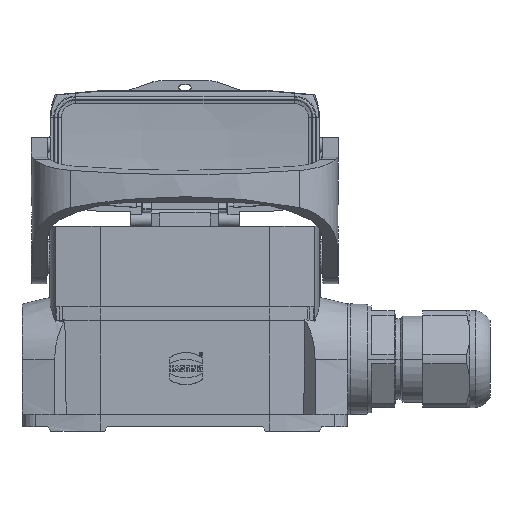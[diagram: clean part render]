
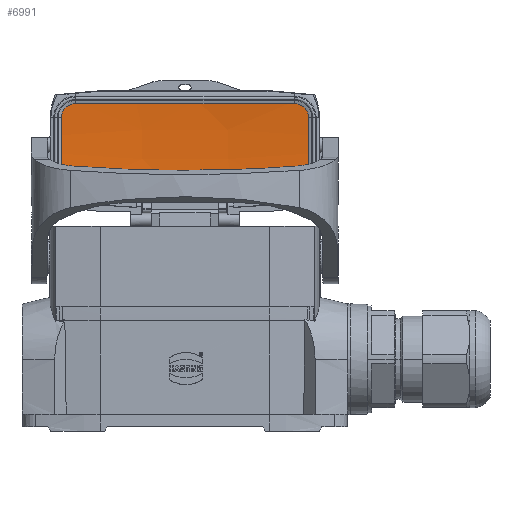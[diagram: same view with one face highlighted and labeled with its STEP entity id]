
A CAD part, front view. The second image highlights one B-rep face of the part: STEP entity #6991.
In plain terms, the highlighted free-form (B-spline) face has degree [3, 3] with [4, 4] control points.
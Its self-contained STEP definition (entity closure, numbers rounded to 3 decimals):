
#5488=(
BOUNDED_SURFACE()
B_SPLINE_SURFACE(3,3,((#31685,#31686,#31687,#31688),(#31689,#31690,#31691,
#31692),(#31693,#31694,#31695,#31696),(#31697,#31698,#31699,#31700)),
 .UNSPECIFIED.,.F.,.F.,.F.)
B_SPLINE_SURFACE_WITH_KNOTS((4,4),(4,4),(0.,1.),(0.,1.),.UNSPECIFIED.)
GEOMETRIC_REPRESENTATION_ITEM()
RATIONAL_B_SPLINE_SURFACE(((1.,0.999,0.999,1.),
(0.998,0.997,0.997,0.998),
(0.998,0.997,0.997,0.998),
(1.,0.999,0.999,1.)))
REPRESENTATION_ITEM('')
SURFACE()
);
#5959=FACE_OUTER_BOUND('',#8612,.T.);
#6991=ADVANCED_FACE('',(#5959),#5488,.T.);
#8612=EDGE_LOOP('',(#10316,#10317,#10318,#10319,#10320,#10321,#10322,#10323));
#10316=ORIENTED_EDGE('',*,*,#16716,.T.);
#10317=ORIENTED_EDGE('',*,*,#16717,.T.);
#10318=ORIENTED_EDGE('',*,*,#16718,.T.);
#10319=ORIENTED_EDGE('',*,*,#16719,.T.);
#10320=ORIENTED_EDGE('',*,*,#16720,.T.);
#10321=ORIENTED_EDGE('',*,*,#16721,.T.);
#10322=ORIENTED_EDGE('',*,*,#16722,.T.);
#10323=ORIENTED_EDGE('',*,*,#16723,.T.);
#14839=VERTEX_POINT('',#31647);
#14840=VERTEX_POINT('',#31648);
#14841=VERTEX_POINT('',#31655);
#14842=VERTEX_POINT('',#31657);
#14843=VERTEX_POINT('',#31664);
#14844=VERTEX_POINT('',#31669);
#14845=VERTEX_POINT('',#31676);
#14846=VERTEX_POINT('',#31678);
#16716=EDGE_CURVE('',#14839,#14840,#18874,.T.);
#16717=EDGE_CURVE('',#14840,#14841,#18875,.T.);
#16718=EDGE_CURVE('',#14841,#14842,#19345,.T.);
#16719=EDGE_CURVE('',#14842,#14843,#18876,.T.);
#16720=EDGE_CURVE('',#14843,#14844,#18877,.T.);
#16721=EDGE_CURVE('',#14844,#14845,#18878,.T.);
#16722=EDGE_CURVE('',#14845,#14846,#19346,.T.);
#16723=EDGE_CURVE('',#14846,#14839,#18879,.T.);
#18874=B_SPLINE_CURVE_WITH_KNOTS('',3,(#31643,#31644,#31645,#31646),
 .UNSPECIFIED.,.F.,.F.,(4,4),(0.,1.),.UNSPECIFIED.);
#18875=B_SPLINE_CURVE_WITH_KNOTS('',3,(#31649,#31650,#31651,#31652,#31653,
#31654),.UNSPECIFIED.,.F.,.F.,(4,2,4),(0.,0.5,1.),.UNSPECIFIED.);
#18876=B_SPLINE_CURVE_WITH_KNOTS('',3,(#31658,#31659,#31660,#31661,#31662,
#31663),.UNSPECIFIED.,.F.,.F.,(4,2,4),(0.,0.5,1.),.UNSPECIFIED.);
#18877=B_SPLINE_CURVE_WITH_KNOTS('',3,(#31665,#31666,#31667,#31668),
 .UNSPECIFIED.,.F.,.F.,(4,4),(0.,1.),.UNSPECIFIED.);
#18878=B_SPLINE_CURVE_WITH_KNOTS('',3,(#31670,#31671,#31672,#31673,#31674,
#31675),.UNSPECIFIED.,.F.,.F.,(4,2,4),(0.,0.5,1.),.UNSPECIFIED.);
#18879=B_SPLINE_CURVE_WITH_KNOTS('',3,(#31679,#31680,#31681,#31682,#31683,
#31684),.UNSPECIFIED.,.F.,.F.,(4,2,4),(0.,0.5,1.),.UNSPECIFIED.);
#19345=CIRCLE('',#24549,197.046);
#19346=CIRCLE('',#24550,197.046);
#24549=AXIS2_PLACEMENT_3D('',#31656,#26660,#26661);
#24550=AXIS2_PLACEMENT_3D('',#31677,#26662,#26663);
#26660=DIRECTION('',(-1.,0.,0.));
#26661=DIRECTION('',(0.,0.,-1.));
#26662=DIRECTION('',(1.,0.,0.));
#26663=DIRECTION('',(0.,0.,-1.));
#31643=CARTESIAN_POINT('',(33.05,36.321,46.35));
#31644=CARTESIAN_POINT('',(11.017,37.789,46.35));
#31645=CARTESIAN_POINT('',(-11.017,37.789,46.35));
#31646=CARTESIAN_POINT('',(-33.05,36.321,46.35));
#31647=CARTESIAN_POINT('',(33.05,36.321,46.35));
#31648=CARTESIAN_POINT('',(-33.05,36.321,46.35));
#31649=CARTESIAN_POINT('',(-33.05,36.321,46.35));
#31650=CARTESIAN_POINT('',(-34.368,36.234,46.35));
#31651=CARTESIAN_POINT('',(-35.663,36.179,45.808));
#31652=CARTESIAN_POINT('',(-37.508,36.151,43.963));
#31653=CARTESIAN_POINT('',(-38.05,36.177,42.67));
#31654=CARTESIAN_POINT('',(-38.05,36.231,41.35));
#31655=CARTESIAN_POINT('',(-38.05,36.231,41.35));
#31656=CARTESIAN_POINT('',(-38.05,-160.65,33.3));
#31657=CARTESIAN_POINT('',(-38.05,36.231,25.25));
#31658=CARTESIAN_POINT('',(-38.05,36.231,25.25));
#31659=CARTESIAN_POINT('',(-38.05,36.177,23.93));
#31660=CARTESIAN_POINT('',(-37.508,36.151,22.637));
#31661=CARTESIAN_POINT('',(-35.663,36.179,20.792));
#31662=CARTESIAN_POINT('',(-34.368,36.234,20.25));
#31663=CARTESIAN_POINT('',(-33.05,36.321,20.25));
#31664=CARTESIAN_POINT('',(-33.05,36.321,20.25));
#31665=CARTESIAN_POINT('',(-33.05,36.321,20.25));
#31666=CARTESIAN_POINT('',(-11.017,37.789,20.25));
#31667=CARTESIAN_POINT('',(11.017,37.789,20.25));
#31668=CARTESIAN_POINT('',(33.05,36.321,20.25));
#31669=CARTESIAN_POINT('',(33.05,36.321,20.25));
#31670=CARTESIAN_POINT('',(33.05,36.321,20.25));
#31671=CARTESIAN_POINT('',(34.368,36.234,20.25));
#31672=CARTESIAN_POINT('',(35.663,36.179,20.792));
#31673=CARTESIAN_POINT('',(37.508,36.151,22.637));
#31674=CARTESIAN_POINT('',(38.05,36.177,23.93));
#31675=CARTESIAN_POINT('',(38.05,36.231,25.25));
#31676=CARTESIAN_POINT('',(38.05,36.231,25.25));
#31677=CARTESIAN_POINT('',(38.05,-160.65,33.3));
#31678=CARTESIAN_POINT('',(38.05,36.231,41.35));
#31679=CARTESIAN_POINT('',(38.05,36.231,41.35));
#31680=CARTESIAN_POINT('',(38.05,36.177,42.67));
#31681=CARTESIAN_POINT('',(37.508,36.151,43.963));
#31682=CARTESIAN_POINT('',(35.663,36.179,45.808));
#31683=CARTESIAN_POINT('',(34.368,36.234,46.35));
#31684=CARTESIAN_POINT('',(33.05,36.321,46.35));
#31685=CARTESIAN_POINT('',(-38.05,35.954,20.116));
#31686=CARTESIAN_POINT('',(-38.05,36.543,28.899));
#31687=CARTESIAN_POINT('',(-38.05,36.543,37.701));
#31688=CARTESIAN_POINT('',(-38.05,35.954,46.484));
#31689=CARTESIAN_POINT('',(-12.708,37.89,19.986));
#31690=CARTESIAN_POINT('',(-12.708,38.485,28.855));
#31691=CARTESIAN_POINT('',(-12.708,38.485,37.745));
#31692=CARTESIAN_POINT('',(-12.708,37.89,46.614));
#31693=CARTESIAN_POINT('',(12.708,37.89,19.986));
#31694=CARTESIAN_POINT('',(12.708,38.485,28.855));
#31695=CARTESIAN_POINT('',(12.708,38.485,37.745));
#31696=CARTESIAN_POINT('',(12.708,37.89,46.614));
#31697=CARTESIAN_POINT('',(38.05,35.954,20.116));
#31698=CARTESIAN_POINT('',(38.05,36.543,28.899));
#31699=CARTESIAN_POINT('',(38.05,36.543,37.701));
#31700=CARTESIAN_POINT('',(38.05,35.954,46.484));
